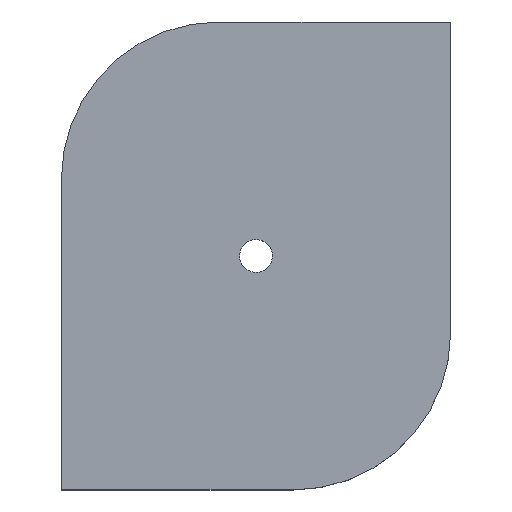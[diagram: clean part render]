
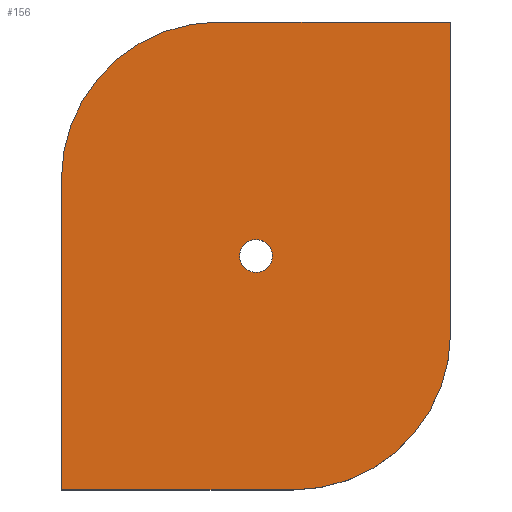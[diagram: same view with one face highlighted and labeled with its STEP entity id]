
A CAD part, top view. The second image highlights one B-rep face of the part: STEP entity #156.
In plain terms, the highlighted planar face has unit normal (0, 0, 1).
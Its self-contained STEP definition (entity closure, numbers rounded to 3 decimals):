
#63=CARTESIAN_POINT('Vertex',(45.825,61.508,14.)) ;
#77=CARTESIAN_POINT('Vertex',(53.175,57.492,14.)) ;
#80=CARTESIAN_POINT('Axis2P3D Location',(49.5,59.5,14.)) ;
#92=CARTESIAN_POINT('Axis2P3D Location',(0.,0.,14.)) ;
#97=CARTESIAN_POINT('Line Origine',(0.,39.5,14.)) ;
#101=CARTESIAN_POINT('Vertex',(0.,79.,14.)) ;
#103=CARTESIAN_POINT('Vertex',(0.,0.,14.)) ;
#106=CARTESIAN_POINT('Line Origine',(29.5,0.,14.)) ;
#110=CARTESIAN_POINT('Vertex',(59.,0.,14.)) ;
#113=CARTESIAN_POINT('Axis2P3D Location',(59.,40.,14.)) ;
#117=CARTESIAN_POINT('Vertex',(99.,40.,14.)) ;
#120=CARTESIAN_POINT('Line Origine',(99.,79.5,14.)) ;
#124=CARTESIAN_POINT('Vertex',(99.,119.,14.)) ;
#127=CARTESIAN_POINT('Line Origine',(69.5,119.,14.)) ;
#131=CARTESIAN_POINT('Vertex',(40.,119.,14.)) ;
#134=CARTESIAN_POINT('Axis2P3D Location',(40.,79.,14.)) ;
#147=CARTESIAN_POINT('Axis2P3D Location',(49.5,59.5,14.)) ;
#81=DIRECTION('Axis2P3D Direction',(0.,-0.,-1.)) ;
#93=DIRECTION('Axis2P3D Direction',(0.,0.,1.)) ;
#94=DIRECTION('Axis2P3D XDirection',(1.,0.,0.)) ;
#98=DIRECTION('Vector Direction',(0.,-1.,0.)) ;
#107=DIRECTION('Vector Direction',(1.,0.,0.)) ;
#114=DIRECTION('Axis2P3D Direction',(0.,0.,1.)) ;
#121=DIRECTION('Vector Direction',(0.,1.,0.)) ;
#128=DIRECTION('Vector Direction',(-1.,0.,0.)) ;
#135=DIRECTION('Axis2P3D Direction',(0.,0.,1.)) ;
#148=DIRECTION('Axis2P3D Direction',(0.,0.,1.)) ;
#82=AXIS2_PLACEMENT_3D('Circle Axis2P3D',#80,#81,$) ;
#95=AXIS2_PLACEMENT_3D('Plane Axis2P3D',#92,#93,#94) ;
#115=AXIS2_PLACEMENT_3D('Circle Axis2P3D',#113,#114,$) ;
#136=AXIS2_PLACEMENT_3D('Circle Axis2P3D',#134,#135,$) ;
#149=AXIS2_PLACEMENT_3D('Circle Axis2P3D',#147,#148,$) ;
#140=ORIENTED_EDGE('',*,*,#105,.T.) ;
#141=ORIENTED_EDGE('',*,*,#112,.T.) ;
#142=ORIENTED_EDGE('',*,*,#119,.F.) ;
#143=ORIENTED_EDGE('',*,*,#126,.T.) ;
#144=ORIENTED_EDGE('',*,*,#133,.T.) ;
#145=ORIENTED_EDGE('',*,*,#138,.F.) ;
#153=ORIENTED_EDGE('',*,*,#151,.F.) ;
#154=ORIENTED_EDGE('',*,*,#84,.F.) ;
#155=FACE_BOUND('',#152,.T.) ;
#99=VECTOR('Line Direction',#98,1.) ;
#108=VECTOR('Line Direction',#107,1.) ;
#122=VECTOR('Line Direction',#121,1.) ;
#129=VECTOR('Line Direction',#128,1.) ;
#156=ADVANCED_FACE('PartBody',(#146,#155),#96,.T.) ;
#83=CIRCLE('generated circle',#82,4.188) ;
#116=CIRCLE('generated circle',#115,40.) ;
#137=CIRCLE('generated circle',#136,40.) ;
#150=CIRCLE('generated circle',#149,4.188) ;
#84=EDGE_CURVE('',#78,#64,#83,.F.) ;
#105=EDGE_CURVE('',#102,#104,#100,.T.) ;
#112=EDGE_CURVE('',#104,#111,#109,.T.) ;
#119=EDGE_CURVE('',#118,#111,#116,.F.) ;
#126=EDGE_CURVE('',#118,#125,#123,.T.) ;
#133=EDGE_CURVE('',#125,#132,#130,.T.) ;
#138=EDGE_CURVE('',#102,#132,#137,.F.) ;
#151=EDGE_CURVE('',#64,#78,#150,.T.) ;
#139=EDGE_LOOP('',(#140,#141,#142,#143,#144,#145)) ;
#152=EDGE_LOOP('',(#153,#154)) ;
#146=FACE_OUTER_BOUND('',#139,.T.) ;
#100=LINE('Line',#97,#99) ;
#109=LINE('Line',#106,#108) ;
#123=LINE('Line',#120,#122) ;
#130=LINE('Line',#127,#129) ;
#96=PLANE('',#95) ;
#64=VERTEX_POINT('',#63) ;
#78=VERTEX_POINT('',#77) ;
#102=VERTEX_POINT('',#101) ;
#104=VERTEX_POINT('',#103) ;
#111=VERTEX_POINT('',#110) ;
#118=VERTEX_POINT('',#117) ;
#125=VERTEX_POINT('',#124) ;
#132=VERTEX_POINT('',#131) ;
